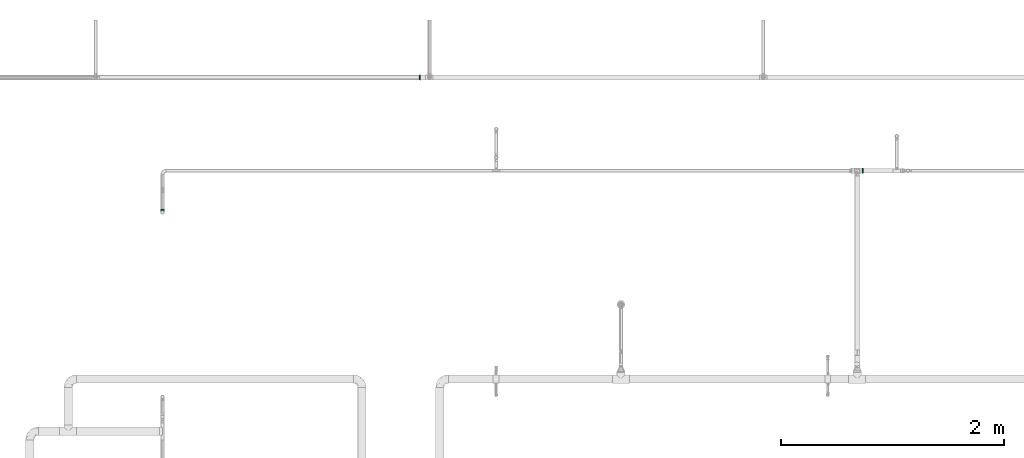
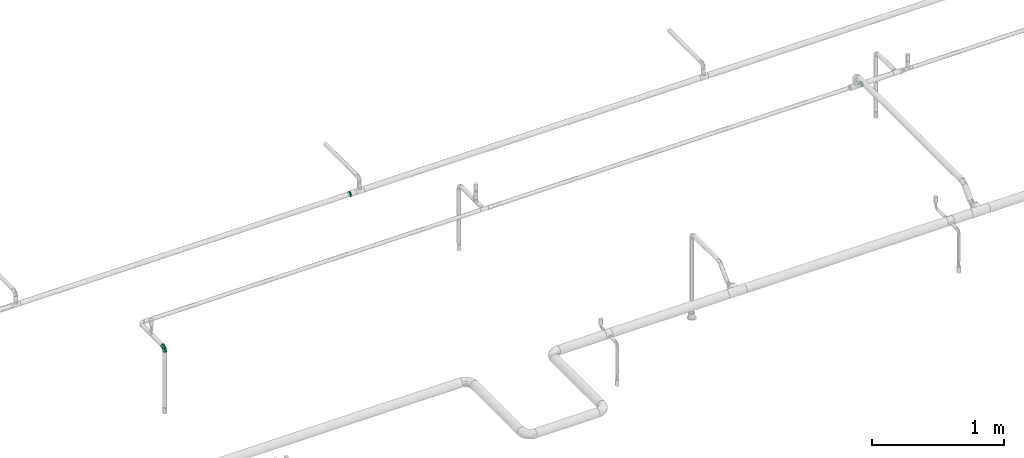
# One storey, part 49 of 51: 3 flow fittings.
"""IFC2X3 building model written with IfcOpenShell, lengths in millimetres."""

from ifc_helpers import new_model, entity, si_unit, converted_unit, derived_unit, direction, frame, origin_with_axes, place, context, subcontext, project, spatial, open_shell, surface_model, source, transform, mapped, type_object, element, save


model = new_model("IFC2X3")

# Units and contexts
model_context = context("Model", 3, precision=0.01, world=frame((0.0, 4.29681676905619e-09, 0.0)), true_north=direction((4.01073788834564e-13, 1.0)))
plan_context = context("Plan", 3, precision=0.01, world=frame((0.0, 4.29681676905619e-09, 0.0)), true_north=direction((4.01073788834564e-13, 1.0)))
body_context = subcontext(model_context, "Body", "Model", "MODEL_VIEW")
ifc_project = project(units=[converted_unit("PLANEANGLEUNIT", "DEGREE", entity("IfcPositiveLengthMeasure", 0.0174532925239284), si_unit("PLANEANGLEUNIT", "RADIAN"), dimensions=[0, 0, 0, 0, 0, 0, 0]), si_unit("AREAUNIT", "SQUARE_METRE"), si_unit("LENGTHUNIT", "METRE", prefix="MILLI"), si_unit("MASSUNIT", "GRAM", prefix="KILO"), si_unit("POWERUNIT", "WATT"), si_unit("PRESSUREUNIT", "PASCAL"), si_unit("FORCEUNIT", "NEWTON", prefix="KILO"), si_unit("ELECTRICVOLTAGEUNIT", "VOLT"), si_unit("ELECTRICCURRENTUNIT", "AMPERE"), si_unit("THERMODYNAMICTEMPERATUREUNIT", "DEGREE_CELSIUS"), si_unit("TIMEUNIT", "SECOND"), si_unit("VOLUMEUNIT", "CUBIC_METRE"), derived_unit("LINEARVELOCITYUNIT", [(si_unit("LENGTHUNIT", "METRE"), 1), (si_unit("TIMEUNIT", "SECOND"), -1)]), derived_unit("VOLUMETRICFLOWRATEUNIT", [(si_unit("VOLUMEUNIT", "CUBIC_METRE"), 1), (si_unit("TIMEUNIT", "SECOND"), -1)]), derived_unit("THERMALTRANSMITTANCEUNIT", [(si_unit("POWERUNIT", "WATT"), 1), (si_unit("THERMODYNAMICTEMPERATUREUNIT", "KELVIN"), -1), (si_unit("AREAUNIT", "SQUARE_METRE"), -1)]), derived_unit("SOUNDPRESSUREUNIT", [(si_unit("PRESSUREUNIT", "PASCAL"), 1)])], contexts=[model_context, plan_context])

# Site, building, storey
site_placement = place(None, frame((0.0, -4.29681676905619e-09, 0.0), z_axis=(0.0, 0.0, 1.0), x_axis=(1.0, 0.0, 0.0)))
site = spatial("IfcSite", under=ifc_project, at=site_placement, Name="ENGM", CompositionType="ELEMENT")
building_placement = place(site_placement, frame((0.0, 4.29681676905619e-09, 0.0), z_axis=(0.0, 0.0, 1.0), x_axis=(1.0, 0.0, 0.0)))
building = spatial("IfcBuilding", under=site, at=building_placement, Name="TH", CompositionType="ELEMENT")
storey_placement = place(building_placement, frame((0.0, 0.0, 210200.0), z_axis=(0.0, 0.0, 1.0), x_axis=(1.0, 0.0, 0.0)))
storey = spatial("IfcBuildingStorey", under=building, at=storey_placement, Name="Nivå F - 0,7 m", CompositionType="ELEMENT", Elevation=210200.0)

# Flow fittings
pipe_fitting_type_1 = type_object("IfcPipeFittingType", Name="magi_pipe_fe_reducer_centric_short_NOR", PredefinedType="TRANSITION")
shared_shape_1 = source(origin_with_axes(), body_context, "Body", "SurfaceModel", [
    surface_model("IfcShellBasedSurfaceModel", [(-2.0, 0.0, 21.2), (-2.0, 5.48696, 20.47763), (-2.0, 10.6, 18.35974), (-2.0, 14.99066, 14.99066), (-2.0, 18.35974, 10.6), (-2.0, 20.47763, 5.48696), (-2.0, -21.2, 0.0), (-2.0, -14.99066, -14.99066), (-2.0, -5.48696, 20.47763), (-2.0, -14.99066, 14.99066), (-2.0, -10.6, 18.35974), (-2.0, -18.35974, 10.6), (-2.0, -20.47763, 5.48696), (-2.0, 20.47763, -5.48696), (-2.0, 10.6, -18.35974), (-2.0, 14.99066, -14.99066), (-2.0, 18.35974, -10.6), (-2.0, 5.48696, -20.47763), (-2.0, 0.0, -21.2), (-2.0, -18.35974, -10.6), (-2.0, -20.47763, -5.48696), (-2.0, -10.6, -18.35974), (-2.0, -5.48696, -20.47763), (-2.0, 21.2, 0.0), (0.0, 10.6, -18.35974), (0.0, 0.0, -21.2), (0.0, 5.48696, -20.47763), (0.0, 20.47763, -5.48696), (0.0, 14.99066, -14.99066), (0.0, -21.2, 0.0), (0.0, -14.99066, -14.99066), (0.0, 18.35974, -10.6), (0.0, -10.6, -18.35974), (0.0, -5.48696, -20.47763), (0.0, -18.35974, -10.6), (0.0, -20.47763, -5.48696), (0.0, -18.35974, 10.6), (0.0, 21.2, 0.0), (0.0, 20.47763, 5.48696), (0.0, 18.35974, 10.6), (0.0, 14.99066, 14.99066), (0.0, 0.0, 21.2), (0.0, 10.6, 18.35974), (0.0, 5.48696, 20.47763), (0.0, -14.99066, 14.99066), (0.0, -20.47763, 5.48696), (0.0, -5.48696, 20.47763), (0.0, -10.6, 18.35974), (8.0, 24.2, 0.0), (8.0, 6.26342, -23.37541), (8.0, 12.1, -20.95781), (8.0, 23.37541, -6.26342), (8.0, 17.11198, -17.11198), (8.0, 20.95781, -12.1), (8.0, -24.2, 0.0), (8.0, -12.1, -20.95781), (8.0, -6.26342, -23.37541), (8.0, 0.0, -24.2), (8.0, -17.11198, -17.11198), (8.0, -23.37541, -6.26342), (8.0, -20.95781, -12.1), (8.0, 20.95781, 12.1), (8.0, 17.11198, 17.11198), (8.0, 12.1, 20.95781), (8.0, 6.26342, 23.37541), (8.0, 0.0, 24.2), (8.0, -23.37541, 6.26342), (8.0, -17.11198, 17.11198), (8.0, -20.95781, 12.1), (8.0, -6.26342, 23.37541), (8.0, -12.1, 20.95781), (8.0, 23.37541, 6.26342), (6.0, 0.0, 24.2), (6.0, 6.26342, 23.37541), (6.0, 12.1, 20.95781), (6.0, 17.11198, 17.11198), (6.0, 6.26342, -23.37541), (6.0, 20.95781, 12.1), (6.0, -23.37541, 6.26342), (6.0, -17.11198, -17.11198), (6.0, -6.26342, 23.37541), (6.0, -17.11198, 17.11198), (6.0, -12.1, 20.95781), (6.0, -20.95781, 12.1), (6.0, -24.2, 0.0), (6.0, 23.37541, 6.26342), (6.0, 24.2, 0.0), (6.0, 23.37541, -6.26342), (6.0, 17.11198, -17.11198), (6.0, 20.95781, -12.1), (6.0, 12.1, -20.95781), (6.0, -23.37541, -6.26342), (6.0, -20.95781, -12.1), (6.0, -6.26342, -23.37541), (6.0, -12.1, -20.95781), (6.0, 0.0, -24.2), (6.0, 7.47821, 23.01557), (6.0, -7.47821, 23.01557), (6.0, 19.57821, 14.2244), (6.0, 19.57821, -14.2244), (6.0, -19.57821, 14.2244), (6.0, -19.57821, -14.2244), (6.0, 7.47821, -23.01557), (6.0, -7.47821, -23.01557), (0.0, -6.55116, 20.1624), (0.0, 6.55116, 20.1624), (0.0, -17.15116, 12.46105), (0.0, -17.15116, -12.46105), (0.0, 17.15116, 12.46105), (0.0, 17.15116, -12.46105), (0.0, -6.55116, -20.1624), (0.0, 6.55116, -20.1624), (6.0, -21.8891, -7.1122), (0.0, -19.17558, -6.23052), (0.0, -11.85116, -16.31172), (6.0, -13.52821, -18.61999), (6.0, 0.0, -23.01557), (0.0, 0.0, -20.1624), (0.0, 18.43768, -8.50153), (0.0, 19.72421, -4.54202), (6.0, 21.8891, -7.1122), (6.0, 13.52821, -18.61999), (0.0, 11.85116, -16.31172), (6.0, 21.8891, 7.1122), (0.0, 19.17558, 6.23052), (0.0, 11.85116, 16.31172), (6.0, 13.52821, 18.61999), (6.0, 0.0, 23.01557), (0.0, 0.0, 20.1624), (0.0, -18.43768, 8.50153), (0.0, -19.72421, 4.54202), (6.0, -21.8891, 7.1122), (6.0, -13.52821, 18.61999), (0.0, -11.85116, 16.31172)], [open_shell([[[0, 1, 2]], [[0, 2, 3]], [[3, 4, 5]], [[3, 5, 0]], [[6, 0, 7]], [[8, 9, 10]], [[8, 0, 9]], [[11, 6, 12]], [[9, 0, 11]], [[0, 6, 11]], [[0, 5, 7]], [[5, 13, 14]], [[15, 13, 16]], [[7, 5, 14]], [[14, 13, 15]], [[17, 18, 14]], [[6, 19, 20]], [[7, 19, 6]], [[21, 18, 22]], [[21, 7, 14]], [[18, 21, 14]], [[13, 5, 23]], [[24, 25, 26]], [[27, 24, 28]], [[29, 30, 24]], [[27, 28, 31]], [[27, 29, 24]], [[25, 32, 33]], [[25, 24, 32]], [[34, 29, 35]], [[32, 24, 30]], [[34, 30, 29]], [[36, 27, 37]], [[38, 39, 40]], [[38, 40, 41]], [[42, 43, 41]], [[42, 41, 40]], [[38, 41, 44]], [[29, 36, 45]], [[27, 36, 29]], [[44, 46, 47]], [[36, 38, 44]], [[41, 46, 44]], [[36, 37, 38]], [[20, 35, 6]], [[19, 34, 20]], [[32, 7, 21]], [[19, 7, 30]], [[33, 21, 22]], [[20, 34, 35]], [[35, 29, 6]], [[33, 32, 21]], [[30, 7, 32]], [[30, 34, 19]], [[25, 33, 22]], [[22, 18, 25]], [[17, 26, 18]], [[14, 24, 17]], [[31, 15, 16]], [[14, 15, 28]], [[27, 16, 13]], [[14, 28, 24]], [[24, 26, 17]], [[37, 27, 13]], [[31, 16, 27]], [[31, 28, 15]], [[23, 37, 13]], [[18, 26, 25]], [[5, 38, 23]], [[4, 39, 5]], [[42, 3, 2]], [[4, 3, 40]], [[43, 2, 1]], [[5, 39, 38]], [[38, 37, 23]], [[43, 42, 2]], [[40, 3, 42]], [[40, 39, 4]], [[41, 43, 1]], [[1, 0, 41]], [[8, 46, 0]], [[10, 47, 8]], [[36, 9, 11]], [[10, 9, 44]], [[45, 11, 12]], [[10, 44, 47]], [[47, 46, 8]], [[29, 45, 12]], [[36, 11, 45]], [[36, 44, 9]], [[6, 29, 12]], [[0, 46, 41]], [[48, 49, 50]], [[51, 50, 52]], [[51, 48, 50]], [[51, 52, 53]], [[49, 54, 55]], [[49, 56, 57]], [[49, 55, 56]], [[58, 59, 60]], [[58, 55, 54]], [[58, 54, 59]], [[49, 48, 61]], [[61, 62, 49]], [[49, 62, 54]], [[63, 64, 65]], [[63, 65, 62]], [[54, 62, 65]], [[66, 67, 68]], [[69, 66, 54]], [[67, 69, 70]], [[69, 67, 66]], [[54, 65, 69]], [[48, 71, 61]], [[72, 73, 74]], [[72, 74, 75]], [[76, 75, 77]], [[78, 72, 79]], [[72, 75, 79]], [[80, 81, 82]], [[80, 72, 81]], [[81, 78, 83]], [[72, 78, 81]], [[78, 79, 84]], [[76, 77, 85]], [[76, 86, 87]], [[88, 87, 89]], [[90, 76, 87]], [[90, 87, 88]], [[76, 79, 75]], [[91, 79, 92]], [[84, 79, 91]], [[76, 93, 94]], [[94, 79, 76]], [[93, 76, 95]], [[85, 86, 76]], [[91, 59, 84]], [[92, 60, 91]], [[55, 79, 94]], [[92, 79, 58]], [[56, 94, 93]], [[91, 60, 59]], [[59, 54, 84]], [[56, 55, 94]], [[58, 79, 55]], [[58, 60, 92]], [[57, 56, 93]], [[93, 95, 57]], [[76, 49, 95]], [[90, 50, 76]], [[53, 88, 89]], [[90, 88, 52]], [[51, 89, 87]], [[90, 52, 50]], [[50, 49, 76]], [[48, 51, 87]], [[53, 89, 51]], [[53, 52, 88]], [[86, 48, 87]], [[95, 49, 57]], [[85, 71, 86]], [[77, 61, 85]], [[63, 75, 74]], [[77, 75, 62]], [[64, 74, 73]], [[85, 61, 71]], [[71, 48, 86]], [[64, 63, 74]], [[62, 75, 63]], [[62, 61, 77]], [[65, 64, 73]], [[73, 72, 65]], [[80, 69, 72]], [[82, 70, 80]], [[68, 81, 83]], [[82, 81, 67]], [[66, 83, 78]], [[82, 67, 70]], [[70, 69, 80]], [[54, 66, 78]], [[68, 83, 66]], [[68, 67, 81]], [[84, 54, 78]], [[72, 69, 65]], [[96, 97, 84]], [[98, 99, 86]], [[96, 99, 98]], [[84, 97, 100]], [[84, 101, 99]], [[101, 102, 99]], [[102, 101, 103]], [[84, 99, 96]], [[104, 105, 37]], [[106, 107, 29]], [[104, 107, 106]], [[37, 105, 108]], [[37, 109, 107]], [[109, 110, 107]], [[110, 109, 111]], [[37, 107, 104]], [[112, 29, 113]], [[113, 107, 101]], [[103, 114, 110]], [[29, 112, 84]], [[113, 101, 112]], [[115, 107, 114]], [[116, 103, 110]], [[117, 102, 116]], [[102, 117, 111]], [[118, 119, 120]], [[107, 115, 101]], [[103, 115, 114]], [[111, 121, 102]], [[122, 99, 121]], [[119, 86, 120]], [[121, 111, 122]], [[119, 37, 86]], [[122, 109, 99]], [[116, 110, 117]], [[118, 99, 109]], [[99, 118, 120]], [[123, 37, 124]], [[124, 108, 98]], [[96, 125, 105]], [[37, 123, 86]], [[124, 98, 123]], [[126, 108, 125]], [[127, 96, 105]], [[128, 97, 127]], [[97, 128, 104]], [[129, 130, 131]], [[108, 126, 98]], [[96, 126, 125]], [[104, 132, 97]], [[133, 100, 132]], [[130, 84, 131]], [[132, 104, 133]], [[130, 29, 84]], [[133, 106, 100]], [[127, 105, 128]], [[129, 100, 106]], [[100, 129, 131]]])]),
])
flow_fitting_1_placement = place(storey_placement, frame((899410.01443, 487040.10129, 2819.99995999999), z_axis=(0.0, 0.0, 1.0), x_axis=(1.0, 0.0, 0.0)))
element("IfcFlowFitting", 1, at=flow_fitting_1_placement, inside=storey, type_object=pipe_fitting_type_1, Name="magi_pipe_fe_reducer_centric_short_NOR", context=body_context, shape_type="MappedRepresentation", body=[
    mapped(shared_shape_1, transform((0.0, 0.0, 0.0), scale=1.0)),
])
pipe_fitting_type_2 = type_object("IfcPipeFittingType", Name="magi_pipe_fe_elbow_short_001", PredefinedType="BEND")
shared_shape_2 = source(origin_with_axes(), body_context, "Body", "SurfaceModel", [
    surface_model("IfcShellBasedSurfaceModel", [(-33.80585, 0.0, -16.9), (-33.80585, -11.9501, -11.9501), (-33.80585, 4.37404, -16.32415), (-33.80585, 8.45, -14.63583), (-33.80585, 16.32415, -4.37404), (-33.80585, 14.63583, -8.45), (-33.80585, 11.9501, -11.9501), (-33.80585, -16.9, 0.0), (-33.80585, -8.45, -14.63583), (-33.80585, -4.37404, -16.32415), (-33.80585, -14.63583, -8.45), (-33.80585, -16.32415, -4.37404), (-33.80585, 16.32415, 4.37404), (-33.80585, 4.37404, 16.32415), (-33.80585, 14.63583, 8.45), (-33.80585, 8.45, 14.63583), (-33.80585, 11.9501, 11.9501), (-33.80585, -16.32415, 4.37404), (-33.80585, -11.9501, 11.9501), (-33.80585, -8.45, 14.63583), (-33.80585, -14.63583, 8.45), (-33.80585, -4.37404, 16.32415), (-33.80585, 0.0, 16.9), (-33.80585, 16.9, 0.0), (-4.37989, 33.80509, -16.32415), (11.94426, 33.80791, -11.9501), (-0.00585, 33.80585, -16.9), (-14.64168, 33.80331, -8.45), (-8.45585, 33.80438, -14.63583), (-11.95595, 33.80378, -11.9501), (-16.32999, 33.80302, -4.37404), (4.36819, 33.8066, -16.32415), (8.44415, 33.80731, -14.63583), (14.62998, 33.80838, -8.45), (16.89415, 33.80877, 0.0), (16.3183, 33.80867, -4.37404), (-16.90585, 33.80292, 0.0), (-16.32999, 33.80302, 4.37404), (-14.64168, 33.80331, 8.45), (14.62998, 33.80838, 8.45), (-8.45585, 33.80438, 14.63583), (-4.37989, 33.80509, 16.32415), (-11.95595, 33.80378, 11.9501), (8.44415, 33.80731, 14.63583), (11.94426, 33.80791, 11.9501), (16.3183, 33.80867, 4.37404), (-0.00585, 33.80585, 16.9), (4.36819, 33.8066, 16.32415), (-24.80006, -13.12955, 9.48716), (-22.19889, -9.75031, 12.59308), (-24.10381, -14.96993, 0.0), (-14.94573, -10.76287, 8.52958), (-22.46697, -14.75058, 5.27067), (14.74669, 22.46952, 5.27067), (11.92304, 13.24738, 4.33246), (13.03736, 14.40403, 0.0), (7.71153, 13.69544, 11.55878), (9.74647, 22.20057, 12.59308), (4.09874, 13.06176, 14.03998), (-24.84587, -6.39071, 15.20476), (-25.82264, -2.23877, 16.61093), (-23.67059, 2.59056, 16.87121), (-26.50968, 14.06515, 11.08164), (-24.21739, 17.66408, 7.72683), (-29.59035, 15.86966, 7.00296), (-6.1771, -7.54353, 0.0), (-13.24532, -11.92533, 4.33246), (-14.40177, -13.03985, 0.0), (-17.81786, 18.87589, 11.97126), (-6.31349, 29.15532, 15.82993), (-2.32056, 25.28498, 16.8585), (-29.24408, 10.23438, 13.77064), (-1.45974, -2.85768, 7.61289), (-0.28501, 0.35117, 10.09352), (-5.74827, -4.0463, 10.41117), (-4.41441, 11.32307, 16.5941), (-8.40125, 3.10061, 15.78082), (-1.73045, 9.13301, 15.53088), (-17.40382, 24.75519, 7.65004), (-26.19836, 20.05151, 0.0), (-28.15069, 17.29672, 4.25843), (-26.0571, 6.62804, 15.96451), (-5.87649, 16.62209, 16.86974), (-12.52164, 12.51947, 16.48951), (-10.06583, 7.38652, 16.81284), (-3.02153, 3.02101, 13.81671), (-13.06105, -4.101, 14.03998), (-16.82959, -0.15121, 16.38028), (10.76028, 14.9476, 8.52958), (13.12526, 24.80233, 9.48716), (6.38641, 24.84698, 15.20476), (2.23431, 25.82302, 16.61093), (-13.69411, -7.7139, 11.55878), (14.96576, 24.1064, 0.0), (-7.31315, 22.90309, 16.09498), (-10.68411, 26.17771, 14.00809), (-12.78747, 18.27122, 15.0606), (-13.88963, 22.45536, 12.93252), (-18.05396, 15.16614, 14.04434), (-23.12174, 20.08229, 4.02994), (-21.85471, 21.85093, 0.0), (-18.56348, 25.48366, 3.93086), (-13.95604, 26.95064, 11.03297), (-18.57545, 7.23975, 16.59758), (-16.58713, 4.14149, 16.89276), (-17.97018, 11.46844, 15.63161), (-9.84857, 17.54534, 16.18944), (0.1483, 16.82962, 16.38028), (-23.27625, 11.47245, 14.23175), (3.8452, 5.87488, 10.70576), (-8.02687, -7.54452, 7.93195), (1.00024, -2.19405, 4.57026), (5.12622, 3.01173, 5.90473), (5.24566, 1.76616, 2.53182), (8.70196, 7.05769, 3.99853), (-20.05604, 26.19489, 0.0), (8.476, 8.76798, 7.10028), (-4.56164, -6.72187, 4.9053), (2.04757, -2.04721, 0.0), (7.54246, 6.17841, 0.0), (-26.75896, 2.1369, -16.84501), (-14.62464, 24.73996, -11.27761), (-28.45826, -13.45336, -9.81888), (-26.01019, 6.63551, -15.9665), (-23.07242, 20.04625, -4.26207), (-13.80959, -4.26328, -14.17893), (-14.67908, -0.20991, -16.07385), (-6.79154, -0.28091, -13.84687), (-24.5405, 11.08119, -14.13433), (-26.72601, 14.00839, -11.05787), (10.09252, 24.45725, -12.75967), (5.82866, 21.40844, -15.03037), (6.6576, 28.54905, -15.38089), (-20.38621, 15.48816, -12.74593), (12.52896, 21.24184, -9.15347), (12.54232, 15.68309, -5.54856), (9.7507, 12.90091, -8.66276), (-15.65619, 19.64359, -13.01353), (-12.03882, 20.66746, -14.67704), (-15.62298, 15.62028, -14.83907), (-25.57141, -15.26188, 0.0), (-24.66014, -15.12934, -5.50943), (13.44844, 28.46059, -9.81888), (15.12507, 24.66276, -5.50943), (-7.36069, -8.31036, -5.65574), (-15.68092, -12.54504, -5.54856), (-24.4555, -10.09675, -12.75967), (0.16466, 0.41779, -9.71667), (-5.71112, -5.32885, -8.89402), (-5.13676, -2.36652, -11.53506), (-21.23967, -12.53264, -9.15347), (0.70926, 7.94286, -14.09357), (0.20737, 14.67912, -16.07385), (3.49005, 14.43295, -14.76367), (-24.90472, -2.13095, -16.59098), (-28.5479, -6.66254, -15.38089), (-18.44899, -7.71573, -13.27004), (2.12664, 24.90509, -16.59098), (-28.6488, 17.44423, -2.89343), (1.70137, -1.28026, -5.09465), (-16.57574, 26.82102, -7.36624), (-17.69538, 27.4288, -3.76415), (-12.89923, -9.75293, -8.66276), (-5.96904, 5.96801, -15.95789), (-20.54247, 20.09371, -8.2901), (-2.14153, 26.75859, -16.84501), (-6.90299, 24.59184, -16.02584), (-10.61194, 26.5354, -13.9805), (-21.40743, -5.83237, -15.03037), (2.9293, 5.90109, -11.55954), (6.89141, 12.62424, -11.82206), (5.57959, 5.96055, -8.79493), (-3.99872, 18.62156, -16.89636), (8.30909, 7.36213, -5.65574), (-9.14156, 9.8637, -16.8904), (-10.00296, 16.02464, -16.39702), (-16.68753, 9.78176, -16.3423), (-27.02457, 16.6118, -7.12969), (15.25746, 25.57405, 0.0), (-18.62225, 3.99549, -16.89636), (-19.38028, 27.82693, 0.0), (-12.62305, -6.8936, -11.82206), (-18.85116, 19.14174, -10.96563)], [open_shell([[[0, 1, 2]], [[3, 2, 4]], [[3, 4, 5]], [[6, 3, 5]], [[4, 2, 7]], [[8, 1, 9]], [[1, 0, 9]], [[10, 11, 1]], [[7, 1, 11]], [[1, 7, 2]], [[7, 12, 4]], [[13, 12, 7]], [[14, 12, 13]], [[14, 13, 15]], [[16, 14, 15]], [[17, 13, 7]], [[18, 19, 20]], [[17, 20, 19]], [[21, 22, 19]], [[13, 17, 19]], [[19, 22, 13]], [[23, 4, 12]], [[24, 25, 26]], [[27, 24, 28]], [[25, 24, 27]], [[27, 28, 29]], [[25, 27, 30]], [[31, 25, 32]], [[31, 26, 25]], [[33, 34, 35]], [[34, 33, 25]], [[30, 34, 25]], [[30, 36, 34]], [[36, 37, 38]], [[34, 38, 39]], [[40, 41, 38]], [[40, 38, 42]], [[39, 38, 41]], [[39, 43, 44]], [[45, 34, 39]], [[43, 46, 47]], [[43, 39, 41]], [[46, 43, 41]], [[34, 36, 38]], [[18, 48, 49]], [[17, 7, 50]], [[51, 48, 52]], [[53, 54, 55]], [[48, 18, 20]], [[17, 52, 20]], [[56, 57, 58]], [[49, 19, 18]], [[49, 59, 19]], [[22, 60, 61]], [[62, 63, 64]], [[65, 66, 67]], [[57, 44, 43]], [[62, 68, 63]], [[41, 69, 70]], [[15, 71, 16]], [[21, 60, 22]], [[72, 73, 74]], [[75, 76, 77]], [[16, 62, 14]], [[38, 37, 78]], [[79, 23, 80]], [[64, 12, 14]], [[22, 61, 13]], [[13, 81, 15]], [[82, 83, 84]], [[74, 85, 86]], [[59, 86, 87]], [[88, 89, 57]], [[90, 43, 47]], [[39, 53, 45]], [[47, 46, 91]], [[54, 53, 88]], [[39, 89, 53]], [[92, 86, 49]], [[89, 39, 44]], [[19, 59, 21]], [[53, 55, 93]], [[93, 45, 53]], [[66, 52, 67]], [[94, 82, 70]], [[95, 96, 94]], [[97, 98, 96]], [[79, 99, 100]], [[40, 42, 95]], [[101, 100, 99]], [[68, 78, 63]], [[41, 40, 69]], [[23, 12, 80]], [[95, 94, 69]], [[78, 101, 99]], [[42, 102, 95]], [[70, 46, 41]], [[97, 95, 102]], [[17, 50, 52]], [[90, 57, 43]], [[57, 90, 58]], [[81, 13, 61]], [[103, 104, 84]], [[105, 81, 103]], [[42, 38, 102]], [[106, 96, 83]], [[94, 106, 82]], [[91, 70, 107]], [[71, 62, 16]], [[62, 108, 98]], [[86, 59, 49]], [[67, 52, 50]], [[60, 59, 87]], [[92, 49, 51]], [[86, 85, 76]], [[91, 90, 47]], [[34, 45, 93]], [[107, 77, 58]], [[107, 58, 90]], [[58, 85, 109]], [[110, 74, 92]], [[72, 74, 110]], [[66, 51, 52]], [[72, 111, 112]], [[113, 114, 112]], [[56, 88, 57]], [[52, 48, 20]], [[49, 48, 51]], [[57, 89, 44]], [[53, 89, 88]], [[103, 81, 61]], [[71, 81, 108]], [[12, 64, 80]], [[63, 78, 99]], [[36, 115, 101]], [[101, 115, 100]], [[38, 78, 102]], [[68, 102, 78]], [[97, 96, 95]], [[105, 98, 108]], [[103, 84, 83]], [[107, 70, 82]], [[76, 84, 87]], [[82, 84, 75]], [[70, 91, 46]], [[90, 91, 107]], [[59, 60, 21]], [[61, 60, 87]], [[73, 85, 74]], [[109, 112, 116]], [[103, 61, 104]], [[105, 103, 83]], [[96, 105, 83]], [[81, 105, 108]], [[96, 98, 105]], [[62, 98, 68]], [[61, 87, 104]], [[87, 84, 104]], [[86, 76, 87]], [[77, 76, 85]], [[58, 77, 85]], [[75, 77, 107]], [[82, 75, 107]], [[76, 75, 84]], [[81, 71, 15]], [[62, 71, 108]], [[95, 69, 40]], [[70, 69, 94]], [[62, 64, 14]], [[80, 63, 99]], [[63, 80, 64]], [[80, 99, 79]], [[66, 65, 117]], [[110, 66, 117]], [[112, 114, 116]], [[118, 117, 65]], [[110, 92, 51]], [[112, 111, 113]], [[119, 55, 54]], [[74, 86, 92]], [[58, 109, 56]], [[116, 56, 109]], [[66, 110, 51]], [[72, 110, 117]], [[111, 72, 117]], [[73, 112, 109]], [[117, 118, 111]], [[113, 111, 118]], [[118, 119, 113]], [[114, 119, 54]], [[119, 114, 113]], [[116, 54, 88]], [[54, 116, 114]], [[116, 88, 56]], [[112, 73, 72]], [[85, 73, 109]], [[78, 37, 101]], [[36, 101, 37]], [[102, 68, 97]], [[97, 68, 98]], [[82, 106, 83]], [[94, 96, 106]], [[2, 120, 0]], [[27, 29, 121]], [[1, 122, 10]], [[3, 123, 2]], [[100, 124, 79]], [[125, 126, 127]], [[128, 6, 129]], [[130, 131, 132]], [[128, 129, 133]], [[134, 135, 136]], [[137, 138, 139]], [[128, 3, 6]], [[67, 140, 141]], [[134, 142, 143]], [[141, 11, 10]], [[144, 65, 145]], [[146, 1, 8]], [[147, 148, 149]], [[145, 141, 150]], [[151, 152, 153]], [[154, 9, 0]], [[8, 155, 146]], [[150, 146, 156]], [[155, 8, 9]], [[143, 135, 134]], [[31, 157, 26]], [[23, 79, 158]], [[148, 159, 144]], [[160, 161, 30]], [[145, 162, 144]], [[163, 152, 151]], [[30, 27, 160]], [[121, 164, 160]], [[32, 25, 130]], [[26, 165, 24]], [[24, 165, 166]], [[142, 25, 33]], [[29, 28, 167]], [[124, 161, 164]], [[157, 31, 132]], [[155, 154, 168]], [[123, 3, 128]], [[169, 170, 171]], [[172, 157, 152]], [[24, 166, 28]], [[132, 31, 32]], [[142, 130, 25]], [[168, 154, 126]], [[136, 135, 173]], [[133, 137, 139]], [[6, 5, 129]], [[170, 131, 130]], [[33, 35, 143]], [[172, 174, 175]], [[176, 123, 128]], [[158, 177, 4]], [[135, 55, 119]], [[167, 28, 166]], [[175, 166, 172]], [[137, 167, 138]], [[122, 141, 10]], [[140, 7, 11]], [[35, 34, 178]], [[170, 130, 134]], [[152, 157, 131]], [[165, 157, 172]], [[153, 170, 151]], [[152, 163, 174]], [[168, 125, 156]], [[122, 146, 150]], [[120, 154, 0]], [[179, 174, 126]], [[179, 126, 154]], [[126, 163, 127]], [[162, 145, 150]], [[140, 11, 141]], [[35, 178, 143]], [[55, 143, 178]], [[177, 129, 5]], [[128, 133, 139]], [[176, 128, 139]], [[120, 123, 179]], [[121, 160, 27]], [[161, 100, 180]], [[166, 175, 138]], [[121, 29, 167]], [[161, 36, 30]], [[79, 124, 158]], [[124, 164, 177]], [[161, 124, 100]], [[136, 171, 170]], [[127, 163, 151]], [[147, 171, 159]], [[148, 144, 162]], [[127, 151, 169]], [[127, 181, 125]], [[129, 177, 164]], [[5, 4, 177]], [[159, 65, 144]], [[67, 141, 145]], [[143, 55, 135]], [[135, 119, 173]], [[123, 120, 2]], [[154, 120, 179]], [[157, 165, 26]], [[166, 165, 172]], [[172, 152, 174]], [[176, 139, 175]], [[126, 174, 163]], [[176, 174, 179]], [[174, 176, 175]], [[123, 176, 179]], [[150, 181, 162]], [[127, 149, 181]], [[181, 148, 162]], [[159, 148, 147]], [[171, 136, 173]], [[170, 134, 136]], [[159, 171, 173]], [[171, 147, 169]], [[169, 147, 149]], [[151, 170, 169]], [[164, 182, 129]], [[182, 121, 137]], [[181, 149, 148]], [[169, 149, 127]], [[182, 137, 133]], [[167, 137, 121]], [[166, 138, 167]], [[175, 139, 138]], [[129, 182, 133]], [[121, 182, 164]], [[161, 160, 164]], [[36, 161, 180]], [[177, 158, 124]], [[23, 158, 4]], [[130, 132, 32]], [[157, 132, 131]], [[143, 142, 33]], [[130, 142, 134]], [[154, 155, 9]], [[146, 155, 168]], [[146, 122, 1]], [[141, 122, 150]], [[152, 131, 153]], [[159, 119, 118]], [[67, 145, 65]], [[170, 153, 131]], [[119, 159, 173]], [[159, 118, 65]], [[156, 125, 181]], [[126, 125, 168]], [[150, 156, 181]], [[168, 156, 146]]])]),
])
flow_fitting_2_placement = place(storey_placement, frame((897100.0, 485825.40691, 2949.63519999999), z_axis=(-1.0, 0.0, 0.0), x_axis=(0.0, 0.0, 1.0)))
element("IfcFlowFitting", 2, at=flow_fitting_2_placement, inside=storey, type_object=pipe_fitting_type_2, Name="magi_pipe_fe_elbow_short_001", context=body_context, shape_type="MappedRepresentation", body=[
    mapped(shared_shape_2, transform((0.0, 0.0, 0.0), scale=1.0)),
])
shared_shape_3 = source(origin_with_axes(), body_context, "Body", "SurfaceModel", [
    surface_model("IfcShellBasedSurfaceModel", [(0.0, 19.57821, 14.2244), (0.0, 7.47821, -23.01557), (0.0, -24.2, 0.0), (0.0, 19.57821, -14.2244), (0.0, 24.2, 0.0), (8.0, -5.48696, -20.47763), (8.0, 0.0, -21.2), (8.0, -10.6, -18.35974), (8.0, -14.99066, -14.99066), (8.0, -20.47763, -5.48696), (8.0, 21.2, 0.0), (8.0, -18.35974, -10.6), (8.0, 14.99066, -14.99066), (8.0, 5.48696, -20.47763), (8.0, 10.6, -18.35974), (8.0, 20.47763, -5.48696), (8.0, 18.35974, -10.6), (8.0, -21.2, 0.0), (8.0, -14.99066, 14.99066), (8.0, -18.35974, 10.6), (8.0, -20.47763, 5.48696), (8.0, 0.0, 21.2), (8.0, -5.48696, 20.47763), (8.0, -10.6, 18.35974), (8.0, 14.99066, 14.99066), (8.0, 20.47763, 5.48696), (8.0, 18.35974, 10.6), (8.0, 10.6, 18.35974), (8.0, 5.48696, 20.47763), (6.0, -10.6, 18.35974), (6.0, -5.48696, 20.47763), (6.0, 0.0, 21.2), (6.0, -14.99066, 14.99066), (6.0, -20.47763, 5.48696), (6.0, -18.35974, 10.6), (6.0, 14.99066, -14.99066), (6.0, 21.2, 0.0), (6.0, 10.6, 18.35974), (6.0, 14.99066, 14.99066), (6.0, 5.48696, 20.47763), (6.0, 20.47763, 5.48696), (6.0, 18.35974, 10.6), (6.0, -10.6, -18.35974), (6.0, -20.47763, -5.48696), (6.0, -18.35974, -10.6), (6.0, -14.99066, -14.99066), (6.0, 0.0, -21.2), (6.0, -5.48696, -20.47763), (6.0, 20.47763, -5.48696), (6.0, 18.35974, -10.6), (6.0, 5.48696, -20.47763), (6.0, 10.6, -18.35974), (6.0, -21.2, 0.0), (-2.0, -12.1, 20.95781), (-2.0, -6.26342, 23.37541), (-2.0, 0.0, 24.2), (-2.0, -17.11198, 17.11198), (-2.0, -20.95781, 12.1), (-2.0, -24.2, 0.0), (-2.0, 24.2, 0.0), (-2.0, -6.26342, -23.37541), (-2.0, 12.1, 20.95781), (-2.0, 17.11198, 17.11198), (-2.0, 6.26342, 23.37541), (-2.0, 23.37541, 6.26342), (-2.0, 20.95781, 12.1), (-2.0, -23.37541, 6.26342), (-2.0, -23.37541, -6.26342), (-2.0, -12.1, -20.95781), (-2.0, -20.95781, -12.1), (-2.0, -17.11198, -17.11198), (-2.0, 12.1, -20.95781), (-2.0, 20.95781, -12.1), (-2.0, 17.11198, -17.11198), (-2.0, 23.37541, -6.26342), (-2.0, 6.26342, -23.37541), (-2.0, 0.0, -24.2), (0.0, -12.1, -20.95781), (0.0, -6.26342, -23.37541), (0.0, -23.37541, -6.26342), (0.0, -17.11198, -17.11198), (0.0, 23.37541, 6.26342), (0.0, -20.95781, -12.1), (0.0, 17.11198, -17.11198), (0.0, 0.0, -24.2), (0.0, 6.26342, -23.37541), (0.0, 12.1, -20.95781), (0.0, 20.95781, -12.1), (0.0, 23.37541, -6.26342), (0.0, -20.95781, 12.1), (0.0, -17.11198, 17.11198), (0.0, 0.0, 24.2), (0.0, -6.26342, 23.37541), (0.0, -12.1, 20.95781), (0.0, 17.11198, 17.11198), (0.0, 20.95781, 12.1), (0.0, 12.1, 20.95781), (0.0, 6.26342, 23.37541), (0.0, -23.37541, 6.26342), (6.0, -17.15116, 12.46105), (6.0, 17.15116, 12.46105), (6.0, 6.55116, 20.1624), (6.0, -6.55116, 20.1624), (6.0, -6.55116, -20.1624), (6.0, 6.55116, -20.1624), (6.0, -17.15116, -12.46105), (6.0, 17.15116, -12.46105), (0.0, -19.57821, 14.2244), (0.0, -7.47821, 23.01557), (0.0, 7.47821, 23.01557), (0.0, -7.47821, -23.01557), (0.0, -19.57821, -14.2244), (6.0, -11.85116, -16.31172), (0.0, -13.52821, -18.61999), (6.0, -19.17558, -6.23052), (0.0, -21.8891, -7.1122), (0.0, 22.51537, -5.18476), (0.0, 0.0, -23.01557), (6.0, 0.0, -20.1624), (6.0, 19.17558, -6.23052), (6.0, 11.85116, -16.31172), (0.0, 13.52821, -18.61999), (0.0, 21.04679, -9.70458), (6.0, 11.85116, 16.31172), (0.0, 13.52821, 18.61999), (6.0, 19.17558, 6.23052), (0.0, 21.8891, 7.1122), (0.0, -22.51537, 5.18476), (0.0, 0.0, 23.01557), (6.0, 0.0, 20.1624), (6.0, -19.17558, 6.23052), (6.0, -11.85116, 16.31172), (0.0, -13.52821, 18.61999), (0.0, -21.04679, 9.70458)], [open_shell([[[0, 1, 2]], [[3, 1, 0]], [[0, 4, 3]], [[5, 6, 7]], [[8, 7, 9]], [[10, 9, 7]], [[11, 8, 9]], [[7, 12, 10]], [[13, 14, 6]], [[14, 7, 6]], [[15, 10, 16]], [[12, 7, 14]], [[10, 12, 16]], [[9, 10, 17]], [[18, 19, 20]], [[21, 18, 20]], [[21, 22, 23]], [[18, 21, 23]], [[24, 21, 20]], [[25, 26, 10]], [[24, 10, 26]], [[27, 28, 24]], [[20, 10, 24]], [[24, 28, 21]], [[17, 10, 20]], [[29, 30, 31]], [[32, 29, 31]], [[33, 34, 32]], [[31, 33, 32]], [[35, 31, 36]], [[37, 38, 39]], [[38, 31, 39]], [[40, 36, 41]], [[31, 38, 41]], [[31, 41, 36]], [[35, 33, 31]], [[42, 43, 33]], [[44, 43, 45]], [[42, 33, 35]], [[45, 43, 42]], [[42, 46, 47]], [[48, 49, 36]], [[36, 49, 35]], [[50, 46, 51]], [[42, 35, 51]], [[42, 51, 46]], [[52, 33, 43]], [[36, 15, 48]], [[48, 16, 49]], [[51, 35, 14]], [[12, 35, 49]], [[50, 51, 13]], [[15, 16, 48]], [[36, 10, 15]], [[51, 14, 13]], [[14, 35, 12]], [[49, 16, 12]], [[50, 13, 6]], [[6, 46, 50]], [[46, 5, 47]], [[47, 7, 42]], [[44, 45, 11]], [[8, 45, 42]], [[43, 44, 9]], [[7, 8, 42]], [[47, 5, 7]], [[43, 9, 17]], [[9, 44, 11]], [[45, 8, 11]], [[43, 17, 52]], [[6, 5, 46]], [[52, 20, 33]], [[33, 19, 34]], [[29, 32, 23]], [[18, 32, 34]], [[30, 29, 22]], [[20, 19, 33]], [[52, 17, 20]], [[29, 23, 22]], [[23, 32, 18]], [[34, 19, 18]], [[30, 22, 21]], [[21, 31, 30]], [[31, 28, 39]], [[39, 27, 37]], [[41, 38, 26]], [[24, 38, 37]], [[40, 41, 25]], [[27, 24, 37]], [[39, 28, 27]], [[40, 25, 10]], [[25, 41, 26]], [[38, 24, 26]], [[40, 10, 36]], [[21, 28, 31]], [[53, 54, 55]], [[56, 53, 55]], [[57, 56, 58]], [[59, 56, 55]], [[56, 59, 60]], [[61, 62, 63]], [[64, 63, 62]], [[65, 64, 62]], [[59, 63, 64]], [[59, 55, 63]], [[66, 57, 58]], [[67, 58, 68]], [[69, 67, 70]], [[58, 60, 68]], [[70, 67, 68]], [[71, 60, 59]], [[72, 73, 74]], [[74, 73, 59]], [[71, 75, 60]], [[71, 59, 73]], [[76, 60, 75]], [[58, 56, 60]], [[77, 78, 79]], [[80, 77, 79]], [[81, 79, 78]], [[82, 80, 79]], [[81, 78, 83]], [[84, 85, 78]], [[85, 86, 78]], [[87, 88, 83]], [[83, 78, 86]], [[88, 4, 83]], [[79, 89, 2]], [[79, 90, 89]], [[81, 90, 79]], [[91, 92, 93]], [[90, 91, 93]], [[91, 90, 94]], [[95, 94, 81]], [[81, 83, 4]], [[96, 97, 94]], [[90, 81, 94]], [[91, 94, 97]], [[2, 89, 98]], [[59, 88, 74]], [[74, 87, 72]], [[71, 73, 86]], [[83, 73, 72]], [[75, 71, 85]], [[88, 87, 74]], [[59, 4, 88]], [[71, 86, 85]], [[86, 73, 83]], [[72, 87, 83]], [[75, 85, 84]], [[84, 76, 75]], [[76, 78, 60]], [[60, 77, 68]], [[69, 70, 82]], [[80, 70, 68]], [[67, 69, 79]], [[77, 80, 68]], [[60, 78, 77]], [[67, 79, 2]], [[79, 69, 82]], [[70, 80, 82]], [[67, 2, 58]], [[84, 78, 76]], [[58, 98, 66]], [[66, 89, 57]], [[53, 56, 93]], [[90, 56, 57]], [[54, 53, 92]], [[98, 89, 66]], [[58, 2, 98]], [[53, 93, 92]], [[93, 56, 90]], [[57, 89, 90]], [[54, 92, 91]], [[91, 55, 54]], [[55, 97, 63]], [[63, 96, 61]], [[65, 62, 95]], [[94, 62, 61]], [[64, 65, 81]], [[96, 94, 61]], [[63, 97, 96]], [[64, 81, 4]], [[81, 65, 95]], [[62, 94, 95]], [[64, 4, 59]], [[91, 97, 55]], [[99, 36, 100]], [[99, 101, 102]], [[100, 101, 99]], [[99, 103, 36]], [[36, 103, 104]], [[52, 105, 99]], [[105, 103, 99]], [[104, 106, 36]], [[0, 2, 107]], [[108, 109, 107]], [[0, 107, 109]], [[110, 2, 1]], [[110, 111, 2]], [[112, 105, 111]], [[112, 113, 103]], [[110, 103, 113]], [[105, 114, 115]], [[2, 114, 52]], [[112, 111, 113]], [[116, 4, 36]], [[117, 118, 110]], [[104, 118, 117]], [[117, 1, 104]], [[115, 111, 105]], [[115, 114, 2]], [[36, 119, 116]], [[106, 120, 121]], [[1, 120, 104]], [[106, 122, 119]], [[121, 120, 1]], [[121, 3, 106]], [[122, 116, 119]], [[110, 118, 103]], [[106, 3, 122]], [[123, 100, 0]], [[123, 124, 101]], [[109, 101, 124]], [[100, 125, 126]], [[4, 125, 36]], [[123, 0, 124]], [[127, 2, 52]], [[128, 129, 109]], [[102, 129, 128]], [[128, 108, 102]], [[126, 0, 100]], [[126, 125, 4]], [[52, 130, 127]], [[99, 131, 132]], [[108, 131, 102]], [[99, 133, 130]], [[132, 131, 108]], [[132, 107, 99]], [[133, 127, 130]], [[109, 129, 101]], [[99, 107, 133]]])]),
])
flow_fitting_3_placement = place(storey_placement, frame((903392.55403, 486201.02538, 2949.56988), z_axis=(0.0, 0.0, 1.0), x_axis=(1.0, 0.0, 0.0)))
element("IfcFlowFitting", 3, at=flow_fitting_3_placement, inside=storey, type_object=pipe_fitting_type_1, Name="magi_pipe_fe_reducer_centric_short_NOR", context=body_context, shape_type="MappedRepresentation", body=[
    mapped(shared_shape_3, transform((0.0, 0.0, 0.0), scale=1.0)),
])

save(model, "model.ifc")
